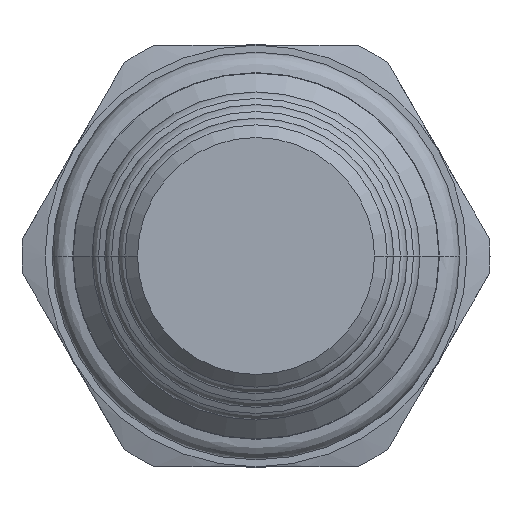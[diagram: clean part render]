
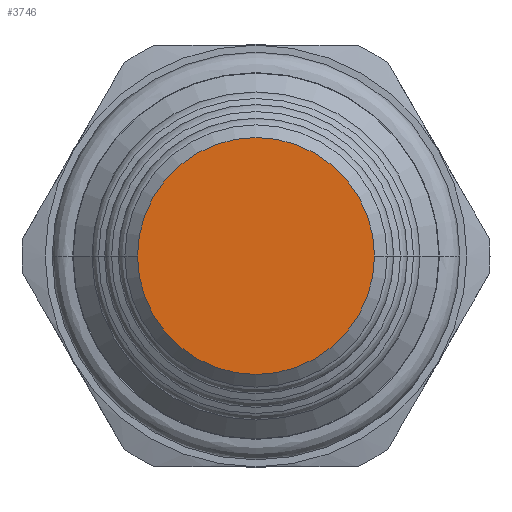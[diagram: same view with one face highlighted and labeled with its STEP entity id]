
A CAD part, front view. The second image highlights one B-rep face of the part: STEP entity #3746.
In plain terms, the highlighted planar face has unit normal (0, -1, 0).
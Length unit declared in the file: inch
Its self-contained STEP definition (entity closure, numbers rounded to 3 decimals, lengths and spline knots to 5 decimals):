
#1397=CARTESIAN_POINT('',(0.,-2.438,0.));
#1398=DIRECTION('',(0.,-1.,0.));
#1399=DIRECTION('',(1.,0.,0.));
#1400=AXIS2_PLACEMENT_3D('',#1397,#1398,#1399);
#1411=CARTESIAN_POINT('',(0.,-2.438,0.));
#1412=DIRECTION('',(0.,1.,0.));
#1413=DIRECTION('',(1.,0.,0.));
#1414=AXIS2_PLACEMENT_3D('',#1411,#1412,#1413);
#1537=CARTESIAN_POINT('',(0.281,-2.438,0.));
#1538=CARTESIAN_POINT('',(-0.281,-2.438,0.));
#1539=VERTEX_POINT('',#1537);
#1540=VERTEX_POINT('',#1538);
#3737=CARTESIAN_POINT('',(0.,-2.438,0.));
#3738=DIRECTION('',(0.,-1.,0.));
#3739=DIRECTION('',(0.,0.,-1.));
#3740=AXIS2_PLACEMENT_3D('',#3737,#3738,#3739);
#3741=PLANE('',#3740);
#3742=ORIENTED_EDGE('',*,*,#3717,.F.);
#3743=ORIENTED_EDGE('',*,*,#3731,.T.);
#3744=EDGE_LOOP('',(#3742,#3743));
#3745=FACE_OUTER_BOUND('',#3744,.F.);
#3746=ADVANCED_FACE('',(#3745),#3741,.T.);
#1401=CIRCLE('',#1400,0.281);
#1415=CIRCLE('',#1414,0.281);
#3717=EDGE_CURVE('',#1539,#1540,#1401,.T.);
#3731=EDGE_CURVE('',#1539,#1540,#1415,.T.);
